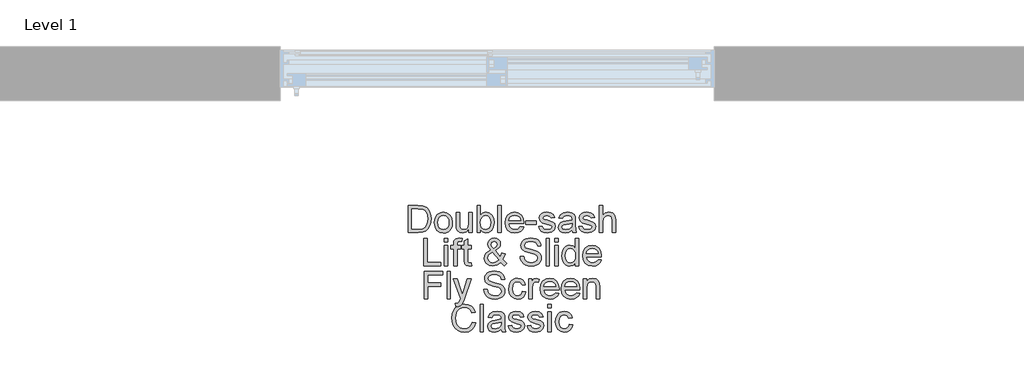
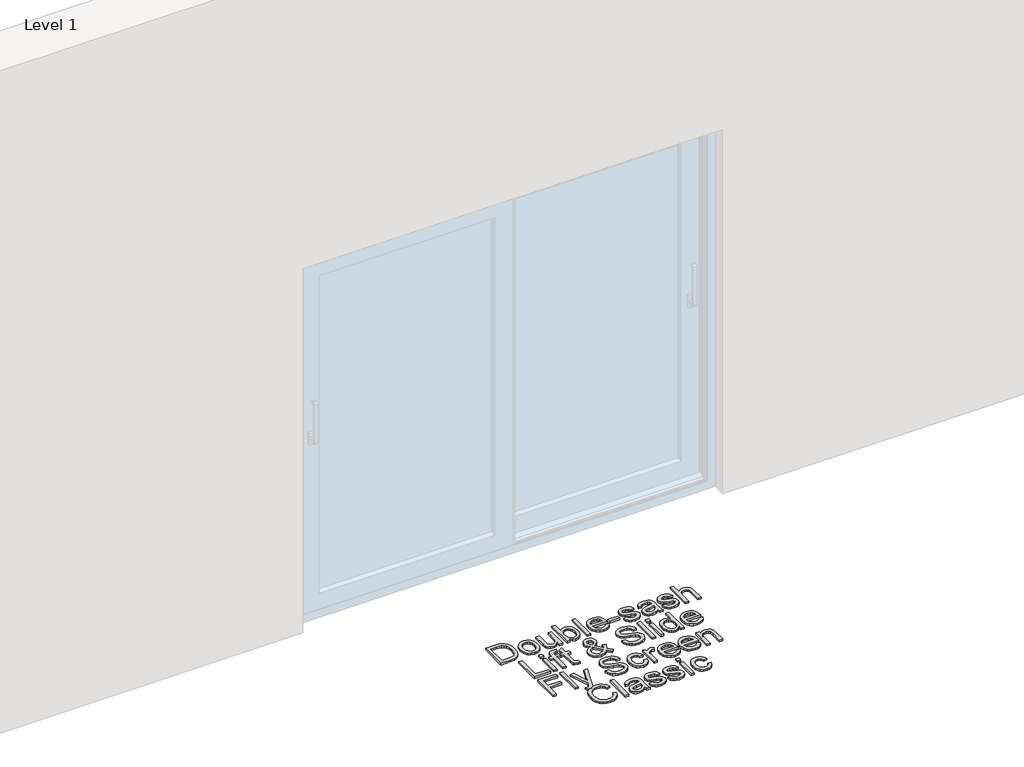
# One storey, part 5 of 13: 1 proxy.
"""IFC4 building model written with IfcOpenShell, lengths in millimetres."""

from ifc_helpers import new_model, si_unit, origin, origin_with_axes, place, context, project, spatial, polyline, outline, extrude, element, save

model = new_model("IFC4")

# Units and contexts
model_context = context("Model", 3, world=origin())
ifc_project = project(units=[si_unit("LENGTHUNIT", "METRE", prefix="MILLI")], contexts=[model_context])

# Site, building, storey
site = spatial("IfcSite", under=ifc_project)
building = spatial("IfcBuilding", under=site)
storey = spatial("IfcBuildingStorey", under=building, Name="Level 1", Elevation=0.0)

# Proxy
placement = place(None, origin())
element("IfcBuildingElementProxy", 1, Name="150mm Arial", ObjectType="150mm Arial", at=placement, inside=storey, context=model_context, shape_type="SweptSolid", body=[
    extrude(outline(polyline([(2688.4009515, -897.6627533), (2688.4009515, -746.9782881), (2740.3826774, -746.9782881), (2767.2748513, -749.1487919), (2789.4213474, -759.9277343), (2799.8416049, -771.4056526), (2807.2636242, -785.679474), (2811.7057993, -802.4732871), (2813.1865243, -821.5111803), (2809.1766105, -851.9166272), (2798.8759147, -873.8607883), (2785.1171281, -887.5276044), (2767.1093044, -895.0875794), (2742.884275, -897.6627533), (2688.4009515, -897.6627533)]), holes=[polyline([(2707.2365097, -878.8271952), (2740.5666184, -878.8271952), (2764.8100419, -876.1048684), (2778.7895577, -868.4161347), (2790.2490819, -849.7093353), (2794.3509661, -821.2168747), (2792.3414107, -800.6890594), (2786.3127445, -785.5323212), (2777.4054017, -775.1212607), (2766.7598165, -768.8304786), (2740.0515836, -765.8138463), (2707.2365097, -765.8138463), (2707.2365097, -878.8271952)])]), origin_with_axes(), (0.0, 0.0, 1.0), 10.0),
    extrude(outline(polyline([(2832.0220824, -842.3333013), (2836.0963755, -815.6526596), (2848.3192548, -796.8998749), (2863.4208107, -787.712022), (2881.5022108, -784.6494044), (2901.2896636, -788.3788081), (2917.0947938, -799.5670193), (2927.4552705, -817.3311212), (2930.9087627, -840.7881969), (2929.3820525, -859.8168931), (2924.8019216, -874.3022466), (2917.3017274, -885.150167), (2907.0148272, -893.2665635), (2894.7965464, -898.3295395), (2881.5022108, -900.0171981), (2861.4756347, -896.30159), (2845.6888986, -885.1547655), (2835.4387865, -867.0181831), (2832.0220824, -842.3333013)]), holes=[polyline([(2850.8576406, -842.2965131), (2853.0373414, -859.343245), (2859.5764439, -871.4879494), (2869.4172873, -878.7582173), (2881.5022108, -881.18164), (2893.531952, -878.7444217), (2903.3544013, -871.4327671), (2909.8935038, -859.1271143), (2912.0732046, -841.7079019), (2909.8797082, -825.1578106), (2903.299219, -813.1786531), (2893.4629742, -805.9083852), (2881.5022108, -803.4849626), (2869.4172873, -805.8991882), (2859.5764439, -813.141865), (2853.0373414, -825.2589782), (2850.8576406, -842.2965131)])]), origin_with_axes(), (0.0, 0.0, 1.0), 10.0),
    extrude(outline(polyline([(3022.7321087, -897.6627533), (3022.7321087, -878.6432542), (3007.9800407, -894.6737121), (2988.7398124, -900.0171981), (2971.0262943, -896.2648018), (2958.8126121, -886.8470227), (2953.2024117, -872.9778715), (2952.0987657, -855.4666885), (2952.0987657, -787.0038492), (2970.9343238, -787.0038492), (2970.9343238, -846.6007324), (2972.074758, -865.8041726), (2979.5243684, -877.0797557), (2993.5590665, -881.18164), (3009.2860218, -876.9877852), (3019.6786882, -865.5650493), (3022.7321087, -844.5773814), (3022.7321087, -787.0038492), (3041.5676669, -787.0038492), (3041.5676669, -897.6627533), (3022.7321087, -897.6627533)])), origin_with_axes(), (0.0, 0.0, 1.0), 10.0),
    extrude(outline(polyline([(3086.3021175, -897.6627533), (3067.4665594, -897.6627533), (3067.4665594, -746.9782881), (3086.3021175, -746.9782881), (3086.3021175, -802.8595632), (3099.490687, -789.2019441), (3115.8798299, -784.6494044), (3134.7521763, -788.7512887), (3149.3938797, -800.2843892), (3158.3885945, -818.2186365), (3161.6443501, -840.6778323), (3158.2736313, -865.8225667), (3148.161475, -884.5293661), (3133.322035, -896.1452401), (3115.7694653, -900.0171981), (3099.0216375, -895.0232), (3086.3021175, -880.0412058), (3086.3021175, -897.6627533)]), holes=[polyline([(3086.3021175, -841.5607491), (3087.5897045, -857.2693103), (3091.4524654, -867.9010999), (3101.3209, -877.861505), (3114.1507845, -881.18164), (3125.0216975, -878.7352247), (3134.3107179, -871.3959789), (3140.6842734, -859.2098878), (3142.808792, -842.2229367), (3140.7716454, -824.9876652), (3134.6602058, -812.9395299), (3125.6608925, -805.8486044), (3114.9601249, -803.4849626), (3104.089212, -805.9313778), (3094.8001916, -813.2706236), (3088.426636, -825.2359855), (3086.3021175, -841.5607491)])]), origin_with_axes(), (0.0, 0.0, 1.0), 10.0),
    extrude(outline(polyline([(3182.834353, -897.6627533), (3182.834353, -746.9782881), (3201.6699112, -746.9782881), (3201.6699112, -897.6627533), (3182.834353, -897.6627533)])), origin_with_axes(), (0.0, 0.0, 1.0), 10.0),
    extrude(outline(polyline([(3307.3991966, -864.7005266), (3325.8668728, -867.0549713), (3319.2128072, -880.9701078), (3308.5948131, -891.3719712), (3294.2520138, -897.8558914), (3276.4235326, -900.0171981), (3254.3230218, -896.2877944), (3237.3176765, -885.0995832), (3226.4743547, -867.1791315), (3222.8599141, -843.2530063), (3226.5111429, -818.5221391), (3237.4648293, -800.0268718), (3254.2402483, -788.4937713), (3275.3566748, -784.6494044), (3295.8155123, -788.4845742), (3312.1632684, -799.9900836), (3322.8824301, -818.4485627), (3326.455484, -843.1426417), (3326.3451194, -848.2194132), (3241.6954723, -848.2194132), (3244.9558265, -862.3184907), (3252.529597, -872.6835659), (3263.4602908, -879.0571214), (3276.7914146, -881.18164), (3295.2590908, -877.2453026), (3307.3991966, -864.7005266)]), holes=[polyline([(3241.6954723, -829.383855), (3307.6199258, -829.383855), (3305.072343, -819.4326471), (3300.0783449, -812.3141305), (3289.0970674, -805.6922545), (3275.2830984, -803.4849626), (3262.5865711, -805.2461976), (3252.0881386, -810.5299028), (3244.7902796, -818.765861), (3241.6954723, -829.383855)])]), origin_with_axes(), (0.0, 0.0, 1.0), 10.0),
    extrude(outline(polyline([(3335.873263, -852.9283027), (3335.873263, -834.0927446), (3394.7343823, -834.0927446), (3394.7343823, -852.9283027), (3335.873263, -852.9283027)])), origin_with_axes(), (0.0, 0.0, 1.0), 10.0),
    extrude(outline(polyline([(3408.8610509, -864.7005266), (3427.696609, -862.3460818), (3430.6672561, -870.4026975), (3436.4154123, -876.3255976), (3456.3914047, -881.18164), (3475.5948448, -876.7302678), (3481.8488387, -866.2824192), (3480.2761432, -861.4815591), (3475.5580566, -857.8211333), (3456.1706755, -852.4500561), (3427.8069736, -843.2346122), (3415.4277445, -832.4740638), (3411.2154956, -817.2805374), (3414.60001, -803.2458393), (3423.8338481, -792.5220791), (3435.808407, -786.9486669), (3452.0136089, -784.6494044), (3474.9326572, -788.3466185), (3489.5007842, -798.3530087), (3495.9755073, -815.2571864), (3477.1399492, -817.6116312), (3470.0582208, -807.2189648), (3453.4851369, -803.4849626), (3435.4589191, -807.0534179), (3430.0510538, -815.367551), (3432.295134, -820.8489927), (3439.3216801, -825.0060593), (3455.5452761, -829.015973), (3483.191608, -837.8819291), (3496.0306896, -847.9251076), (3500.6843969, -864.2958564), (3495.2213492, -882.3220741), (3479.4576058, -895.4002791), (3456.1338873, -900.0171981), (3437.1419793, -897.791512), (3423.2820251, -891.1144538), (3414.0297929, -880.0595999), (3408.8610509, -864.7005266)])), origin_with_axes(), (0.0, 0.0, 1.0), 10.0),
    extrude(outline(polyline([(3592.5077429, -883.5360847), (3574.2424018, -896.30159), (3554.0640744, -900.0171981), (3538.3233235, -897.782315), (3526.712048, -891.0776656), (3519.5521447, -880.8965314), (3517.1655103, -868.2321937), (3520.7707538, -853.3329729), (3530.2437152, -842.5172423), (3543.4322847, -836.3368247), (3559.7294571, -833.5041334), (3592.3973783, -827.0294103), (3592.5077429, -822.8355555), (3591.2109588, -814.4294519), (3587.3206067, -808.9296161), (3578.6201976, -804.846126), (3566.4984858, -803.4849626), (3547.4421985, -807.1086002), (3538.3555132, -819.966076), (3519.519955, -817.6116312), (3527.6685412, -799.2175314), (3544.0760782, -788.438589), (3568.926507, -784.6494044), (3591.7535848, -787.9971306), (3604.6478487, -796.4032342), (3610.423596, -809.1871335), (3611.343301, -825.6682469), (3611.343301, -849.10233), (3612.2997942, -881.8254334), (3616.0521906, -897.6627533), (3597.2166324, -897.6627533), (3592.5077429, -883.5360847)]), holes=[polyline([(3592.5077429, -845.8649684), (3562.1206901, -851.6407157), (3545.9154882, -854.6941363), (3538.5762424, -859.6605432), (3536.0010684, -866.9078185), (3541.6112688, -877.0981498), (3558.0739881, -881.18164), (3577.1302755, -876.6750855), (3589.4175341, -865.7673844), (3592.3973783, -851.1992574), (3592.5077429, -845.8649684)])]), origin_with_axes(), (0.0, 0.0, 1.0), 10.0),
    extrude(outline(polyline([(3630.1788592, -864.7005266), (3649.0144173, -862.3460818), (3651.9850644, -870.4026975), (3657.7332206, -876.3255976), (3677.709213, -881.18164), (3696.9126531, -876.7302678), (3703.166647, -866.2824192), (3701.5939515, -861.4815591), (3696.8758649, -857.8211333), (3677.4884838, -852.4500561), (3649.1247819, -843.2346122), (3636.7455528, -832.4740638), (3632.5333039, -817.2805374), (3635.9178183, -803.2458393), (3645.1516564, -792.5220791), (3657.1262153, -786.9486669), (3673.3314172, -784.6494044), (3696.2504655, -788.3466185), (3710.8185925, -798.3530087), (3717.2933156, -815.2571864), (3698.4577575, -817.6116312), (3691.3760291, -807.2189648), (3674.8029452, -803.4849626), (3656.7767274, -807.0534179), (3651.3688621, -815.367551), (3653.6129423, -820.8489927), (3660.6394884, -825.0060593), (3676.8630844, -829.015973), (3704.5094163, -837.8819291), (3717.3484979, -847.9251076), (3722.0022052, -864.2958564), (3716.5391575, -882.3220741), (3700.7754141, -895.4002791), (3677.4516956, -900.0171981), (3658.4597876, -897.791512), (3644.5998334, -891.1144538), (3635.3476012, -880.0595999), (3630.1788592, -864.7005266)])), origin_with_axes(), (0.0, 0.0, 1.0), 10.0),
    extrude(outline(polyline([(3743.1922081, -897.6627533), (3743.1922081, -746.9782881), (3762.0277662, -746.9782881), (3762.0277662, -802.3813166), (3776.7154549, -789.0823825), (3794.806052, -784.6494044), (3815.9592667, -789.4870527), (3828.7983484, -802.8595632), (3832.6611093, -827.6180215), (3832.6611093, -897.6627533), (3813.8255512, -897.6627533), (3813.8255512, -829.567796), (3812.326432, -817.7771781), (3807.8290746, -809.7021683), (3800.5817993, -805.039264), (3790.8329265, -803.4849626), (3775.4002768, -807.6788173), (3765.0995809, -819.046371), (3762.0277662, -838.8752105), (3762.0277662, -897.6627533), (3743.1922081, -897.6627533)])), origin_with_axes(), (0.0, 0.0, 1.0), 10.0),
    extrude(outline(polyline([(2773.1609632, -1080.6249801), (2773.1609632, -929.9405149), (2791.9965214, -929.9405149), (2791.9965214, -1061.789422), (2867.338754, -1061.789422), (2867.338754, -1080.6249801), (2773.1609632, -1080.6249801)])), origin_with_axes(), (0.0, 0.0, 1.0), 10.0),
    extrude(outline(polyline([(2886.1743121, -948.776073), (2886.1743121, -929.9405149), (2905.0098703, -929.9405149), (2905.0098703, -948.776073), (2886.1743121, -948.776073)])), origin_with_axes(), (0.0, 0.0, 1.0), 10.0),
    extrude(outline(polyline([(2886.1743121, -1080.6249801), (2886.1743121, -969.966076), (2905.0098703, -969.966076), (2905.0098703, -1080.6249801), (2886.1743121, -1080.6249801)])), origin_with_axes(), (0.0, 0.0, 1.0), 10.0),
    extrude(outline(polyline([(2937.9720971, -1080.6249801), (2937.9720971, -988.8016341), (2921.4909837, -988.8016341), (2921.4909837, -969.966076), (2937.9720971, -969.966076), (2937.9720971, -958.8192515), (2939.9586598, -943.1106903), (2949.5971681, -931.8902895), (2968.5798791, -927.5860701), (2985.7599682, -929.6462093), (2983.0008533, -947.3045451), (2972.1483344, -946.4216283), (2960.2841401, -949.5486252), (2956.8076552, -961.2104845), (2956.8076552, -969.966076), (2977.9976581, -969.966076), (2977.9976581, -988.8016341), (2956.8076552, -988.8016341), (2956.8076552, -1080.6249801), (2937.9720971, -1080.6249801)])), origin_with_axes(), (0.0, 0.0, 1.0), 10.0),
    extrude(outline(polyline([(3034.5043326, -1064.9164189), (3036.8587774, -1081.1768031), (3022.7688969, -1082.9794249), (3006.9867593, -1079.8524279), (2999.1140847, -1071.6486594), (2996.8332163, -1050.2747155), (2996.8332163, -988.8016341), (2982.7065477, -988.8016341), (2982.7065477, -969.966076), (2996.8332163, -969.966076), (2996.8332163, -943.0739021), (3015.6687744, -932.0006541), (3015.6687744, -969.966076), (3034.5043326, -969.966076), (3034.5043326, -988.8016341), (3015.6687744, -988.8016341), (3015.6687744, -1049.7228925), (3016.6620558, -1059.4349772), (3019.8810233, -1062.8746738), (3026.3005641, -1064.1438667), (3034.5043326, -1064.9164189)])), origin_with_axes(), (0.0, 0.0, 1.0), 10.0),
    extrude(outline(polyline([(3198.6164906, -1062.0101512), (3178.6404983, -1077.7371064), (3155.2799916, -1082.9794249), (3134.4946589, -1079.0982698), (3118.4917921, -1067.4548047), (3110.2420383, -1054.054703), (3107.4921204, -1039.1646793), (3109.7040109, -1025.9669127), (3116.3396824, -1014.1119154), (3127.3715437, -1003.6088844), (3142.7720038, -994.4670168), (3129.6202224, -975.4107295), (3126.3276786, -961.2840609), (3128.9212467, -948.5645409), (3136.7019508, -937.6292486), (3148.4097953, -930.0968647), (3162.7847843, -927.5860701), (3176.4607975, -929.9865001), (3187.3960898, -937.1877902), (3194.5697887, -947.7552005), (3196.9610217, -960.2539913), (3195.1905896, -970.7478252), (3189.8792933, -980.4507128), (3168.634108, -997.4836492), (3195.8941639, -1031.4391574), (3204.024356, -1010.5802482), (3222.8599141, -1014.6637384), (3209.5425859, -1045.6761906), (3232.2776932, -1068.4848743), (3218.1510246, -1082.9794249), (3198.6164906, -1062.0101512)]), holes=[polyline([(3159.1059644, -985.6010608), (3174.5937964, -973.9208074), (3178.1254635, -962.8291653), (3173.4717563, -951.0017591), (3161.8282911, -946.4216283), (3149.9273086, -950.9649709), (3145.1632367, -962.0566131), (3146.7819175, -968.9544005), (3151.6747481, -976.6247401), (3159.1059644, -985.6010608)]), polyline([(3185.9981382, -1048.4353055), (3152.3737238, -1006.4599699), (3131.6803616, -1022.2421075), (3126.3276786, -1036.6630817), (3128.1578915, -1045.5474319), (3133.6485303, -1054.7628758), (3142.4960923, -1061.798619), (3154.3970748, -1064.1438667), (3171.7059227, -1059.766071), (3185.9981382, -1048.4353055)])]), origin_with_axes(), (0.0, 0.0, 1.0), 10.0),
    extrude(outline(polyline([(3305.265481, -1028.8271952), (3324.1010392, -1028.8271952), (3330.1710921, -1047.6811474), (3344.9967365, -1059.6005241), (3367.584691, -1064.1438667), (3387.2663778, -1060.7041701), (3399.9767007, -1051.2496028), (3404.1521613, -1038.6128563), (3401.0251644, -1026.8590265), (3388.222871, -1018.3057701), (3360.7972682, -1011.1136771), (3331.2747381, -1001.8246567), (3315.2534772, -987.8083527), (3309.9743706, -969.0831592), (3311.6068469, -958.0512978), (3316.504276, -947.7643976), (3324.5378991, -939.0455943), (3335.5789574, -932.7180239), (3363.5012009, -927.5860701), (3393.2996425, -932.9571472), (3404.7223784, -939.5882202), (3413.1652702, -948.7392848), (3418.5087562, -959.840124), (3420.6332747, -972.3205207), (3401.7977166, -972.3205207), (3398.3396258, -961.0817258), (3391.1291387, -952.9699278), (3379.8627526, -948.0587031), (3364.2369649, -946.4216283), (3348.2432951, -948.040309), (3337.2712146, -952.8963514), (3330.9252502, -960.0424591), (3328.8099287, -968.5313362), (3330.3090479, -975.7694144), (3334.8064053, -981.591147), (3365.56134, -992.1125721), (3398.8914488, -1001.5671393), (3409.6290045, -1008.4005474), (3417.1200017, -1016.8342421), (3421.52079, -1026.7762531), (3422.9877195, -1038.1346097), (3421.3000608, -1049.7458851), (3416.2370849, -1060.6673819), (3408.0057252, -1070.0667668), (3396.8129155, -1077.1117071), (3383.353033, -1081.5124954), (3368.320455, -1082.9794249), (3349.8665744, -1081.3975323), (3334.6776466, -1076.6518546), (3322.5789274, -1068.7239976), (3313.3956731, -1057.5955672), (3307.5003642, -1044.0391157), (3305.265481, -1028.8271952)])), origin_with_axes(), (0.0, 0.0, 1.0), 10.0),
    extrude(outline(polyline([(3448.886612, -1080.6249801), (3448.886612, -929.9405149), (3467.7221701, -929.9405149), (3467.7221701, -1080.6249801), (3448.886612, -1080.6249801)])), origin_with_axes(), (0.0, 0.0, 1.0), 10.0),
    extrude(outline(polyline([(3495.9755073, -948.776073), (3495.9755073, -929.9405149), (3514.8110655, -929.9405149), (3514.8110655, -948.776073), (3495.9755073, -948.776073)])), origin_with_axes(), (0.0, 0.0, 1.0), 10.0),
    extrude(outline(polyline([(3495.9755073, -1080.6249801), (3495.9755073, -969.966076), (3514.8110655, -969.966076), (3514.8110655, -1080.6249801), (3495.9755073, -1080.6249801)])), origin_with_axes(), (0.0, 0.0, 1.0), 10.0),
    extrude(outline(polyline([(3611.343301, -1080.6249801), (3611.343301, -1062.8562797), (3598.8812984, -1077.9486386), (3581.655224, -1082.9794249), (3569.47833, -1081.158409), (3558.3315055, -1075.6953614), (3548.8953323, -1066.9719596), (3541.8503921, -1055.3698811), (3537.4633993, -1041.3581756), (3536.0010684, -1025.4058926), (3541.3905396, -995.42351), (3548.1227802, -983.5317245), (3557.5405592, -974.7853301), (3568.9311055, -969.4050559), (3581.5816476, -967.6116312), (3598.9456778, -972.743585), (3611.343301, -986.0793073), (3611.343301, -929.9405149), (3630.1788592, -929.9405149), (3630.1788592, -1080.6249801), (3611.343301, -1080.6249801)]), holes=[polyline([(3554.8366266, -1025.3323162), (3556.9611451, -1042.3698511), (3563.3347007, -1054.4869644), (3572.5961299, -1061.7296411), (3583.3842694, -1064.1438667), (3594.1678104, -1061.8400057), (3603.1947148, -1054.9284227), (3609.3061545, -1043.2803591), (3611.343301, -1026.767056), (3609.2693663, -1008.7132471), (3603.047562, -996.1960622), (3593.7907313, -988.8844076), (3582.6117172, -986.4471893), (3571.7132131, -988.7878385), (3562.7828777, -995.8097861), (3556.8231893, -1007.871717), (3554.8366266, -1025.3323162)])]), origin_with_axes(), (0.0, 0.0, 1.0), 10.0),
    extrude(outline(polyline([(3735.9081446, -1047.6627533), (3754.3758208, -1050.0171981), (3747.7217552, -1063.9323346), (3737.1037611, -1074.334198), (3722.7609618, -1080.8181182), (3704.9324806, -1082.9794249), (3682.8319697, -1079.2500212), (3665.8266245, -1068.06181), (3654.9833027, -1050.1413583), (3651.3688621, -1026.215233), (3655.0200909, -1001.4843659), (3665.9737773, -982.9890986), (3682.7491963, -971.455998), (3703.8656228, -967.6116312), (3724.3244603, -971.446801), (3740.6722164, -982.9523104), (3751.3913781, -1001.4107895), (3754.9644319, -1026.1048684), (3754.8540673, -1031.18164), (3670.2044203, -1031.18164), (3673.4647744, -1045.2807174), (3681.038545, -1055.6457926), (3691.9692388, -1062.0193482), (3705.3003626, -1064.1438667), (3723.7680388, -1060.2075294), (3735.9081446, -1047.6627533)]), holes=[polyline([(3670.2044203, -1012.3460818), (3736.1288738, -1012.3460818), (3733.581291, -1002.3948738), (3728.5872929, -995.2763572), (3717.6060153, -988.6544813), (3703.7920464, -986.4471893), (3691.0955191, -988.2084244), (3680.5970866, -993.4921296), (3673.2992275, -1001.7280877), (3670.2044203, -1012.3460818)])]), origin_with_axes(), (0.0, 0.0, 1.0), 10.0),
    extrude(outline(polyline([(2776.6926304, -1263.5872069), (2776.6926304, -1112.9027417), (2877.9337554, -1112.9027417), (2877.9337554, -1131.7382998), (2795.5281885, -1131.7382998), (2795.5281885, -1176.4727504), (2866.1615316, -1176.4727504), (2866.1615316, -1195.3083086), (2795.5281885, -1195.3083086), (2795.5281885, -1263.5872069), (2776.6926304, -1263.5872069)])), origin_with_axes(), (0.0, 0.0, 1.0), 10.0),
    extrude(outline(polyline([(2901.4782031, -1263.5872069), (2901.4782031, -1112.9027417), (2920.3137613, -1112.9027417), (2920.3137613, -1263.5872069), (2901.4782031, -1263.5872069)])), origin_with_axes(), (0.0, 0.0, 1.0), 10.0),
    extrude(outline(polyline([(2948.5670985, -1305.9672127), (2946.2126537, -1287.8306304), (2955.7775856, -1289.4860993), (2964.7171181, -1287.4075661), (2970.1985598, -1281.6134246), (2975.3489078, -1267.7442734), (2976.8204357, -1263.1825367), (2936.7948747, -1152.9283027), (2956.6605024, -1152.9283027), (2977.8872935, -1214.3645959), (2985.2817216, -1238.9391132), (2992.6761497, -1217.2340755), (3014.4915521, -1152.9283027), (3034.210027, -1152.9283027), (2995.6927821, -1266.2359572), (2985.6863918, -1290.8104745), (2974.7602966, -1304.0910145), (2960.081805, -1308.3216575), (2948.5670985, -1305.9672127)])), origin_with_axes(), (0.0, 0.0, 1.0), 10.0),
    extrude(outline(polyline([(3103.9604533, -1211.789422), (3122.7960114, -1211.789422), (3128.8660644, -1230.6433742), (3143.6917088, -1242.5627509), (3166.2796633, -1247.1060935), (3185.96135, -1243.6663968), (3198.6716729, -1234.2118296), (3202.8471336, -1221.575083), (3199.7201366, -1209.8212533), (3186.9178432, -1201.2679969), (3159.4922404, -1194.0759039), (3129.9697103, -1184.7868835), (3113.9484494, -1170.7705795), (3108.6693428, -1152.0453859), (3110.3018192, -1141.0135246), (3115.1992482, -1130.7266243), (3123.2328713, -1122.007821), (3134.2739297, -1115.6802507), (3162.1961731, -1110.5482969), (3191.9946147, -1115.919374), (3203.4173507, -1122.550447), (3211.8602425, -1131.7015116), (3217.2037284, -1142.8023508), (3219.328247, -1155.2827475), (3200.4926888, -1155.2827475), (3197.0345981, -1144.0439525), (3189.824111, -1135.9321546), (3178.5577248, -1131.0209299), (3162.9319371, -1129.383855), (3146.9382674, -1131.0025358), (3135.9661869, -1135.8585782), (3129.6202224, -1143.0046859), (3127.504901, -1151.4935629), (3129.0040201, -1158.7316412), (3133.5013775, -1164.5533738), (3164.2563123, -1175.0747988), (3197.5864211, -1184.5293661), (3208.3239768, -1191.3627742), (3215.8149739, -1199.7964689), (3220.2157623, -1209.7384798), (3221.6826917, -1221.0968364), (3219.9950331, -1232.7081119), (3214.9320571, -1243.6296086), (3206.7006975, -1253.0289936), (3195.5078878, -1260.0739338), (3182.0480053, -1264.4747222), (3167.0154273, -1265.9416516), (3148.5615467, -1264.3597591), (3133.3726188, -1259.6140813), (3121.2738997, -1251.6862243), (3112.0906454, -1240.557794), (3106.1953364, -1227.0013425), (3103.9604533, -1211.789422)])), origin_with_axes(), (0.0, 0.0, 1.0), 10.0),
    extrude(outline(polyline([(3318.2149273, -1223.5616458), (3337.0504854, -1225.9160906), (3331.7989699, -1242.6685169), (3321.9305354, -1255.3282561), (3308.3740839, -1263.2883028), (3292.0585174, -1265.9416516), (3272.0227442, -1262.2398391), (3256.3555698, -1251.1344013), (3246.2434134, -1233.1127821), (3242.8726947, -1208.662425), (3244.312033, -1191.9008016), (3248.6300479, -1177.3740613), (3255.8957173, -1165.6432242), (3266.1780191, -1157.2693103), (3278.4790733, -1152.247721), (3291.801, -1150.573858), (3307.7164948, -1152.8731204), (3320.4406133, -1159.7709078), (3329.5686853, -1170.8993382), (3334.6960407, -1185.8905295), (3315.8604825, -1188.2449743), (3307.1232851, -1174.1366998), (3291.9481528, -1169.4094161), (3279.7758573, -1171.7362697), (3270.1143564, -1178.7168306), (3263.8097787, -1190.7281777), (3261.7082528, -1208.1473902), (3263.7637935, -1225.8011274), (3269.9304154, -1237.8538613), (3279.4171724, -1244.7930354), (3291.433118, -1247.1060935), (3301.1865894, -1245.6621567), (3309.1834243, -1241.3303462), (3315.0005583, -1234.0002974), (3318.2149273, -1223.5616458)])), origin_with_axes(), (0.0, 0.0, 1.0), 10.0),
    extrude(outline(polyline([(3353.5315988, -1263.5872069), (3353.5315988, -1152.9283027), (3370.0127122, -1152.9283027), (3370.0127122, -1169.2990515), (3381.7113596, -1154.2158897), (3393.4835835, -1150.573858), (3412.392718, -1156.3863935), (3406.1019359, -1173.2721771), (3392.8581841, -1169.4094161), (3382.2080003, -1173.1250243), (3375.4205775, -1183.4257201), (3372.367157, -1205.4250634), (3372.367157, -1263.5872069), (3353.5315988, -1263.5872069)])), origin_with_axes(), (0.0, 0.0, 1.0), 10.0),
    extrude(outline(polyline([(3501.6408901, -1230.6249801), (3520.1085662, -1232.9794249), (3513.4545006, -1246.8945613), (3502.8365065, -1257.2964248), (3488.4937073, -1263.7803449), (3470.6652261, -1265.9416516), (3448.5647152, -1262.2122479), (3431.55937, -1251.0240367), (3420.7160482, -1233.1035851), (3417.1016076, -1209.1774598), (3420.7528364, -1184.4465927), (3431.7065228, -1165.9513254), (3448.4819418, -1154.4182248), (3469.5983683, -1150.573858), (3490.0572057, -1154.4090278), (3506.4049619, -1165.9145372), (3517.1241235, -1184.3730163), (3520.6971774, -1209.0670952), (3520.5868128, -1214.1438667), (3435.9371657, -1214.1438667), (3439.1975199, -1228.2429442), (3446.7712905, -1238.6080194), (3457.7019843, -1244.981575), (3471.0331081, -1247.1060935), (3489.5007842, -1243.1697561), (3501.6408901, -1230.6249801)]), holes=[polyline([(3435.9371657, -1195.3083086), (3501.8616193, -1195.3083086), (3499.3140364, -1185.3571006), (3494.3200384, -1178.238584), (3483.3387608, -1171.6167081), (3469.5247919, -1169.4094161), (3456.8282645, -1171.1706512), (3446.3298321, -1176.4543563), (3439.031973, -1184.6903145), (3435.9371657, -1195.3083086)])]), origin_with_axes(), (0.0, 0.0, 1.0), 10.0),
    extrude(outline(polyline([(3617.0086838, -1230.6249801), (3635.4763599, -1232.9794249), (3628.8222943, -1246.8945613), (3618.2043002, -1257.2964248), (3603.8615009, -1263.7803449), (3586.0330198, -1265.9416516), (3563.9325089, -1262.2122479), (3546.9271637, -1251.0240367), (3536.0838419, -1233.1035851), (3532.4694013, -1209.1774598), (3536.1206301, -1184.4465927), (3547.0743165, -1165.9513254), (3563.8497354, -1154.4182248), (3584.966162, -1150.573858), (3605.4249994, -1154.4090278), (3621.7727556, -1165.9145372), (3632.4919172, -1184.3730163), (3636.0649711, -1209.0670952), (3635.9546065, -1214.1438667), (3551.3049594, -1214.1438667), (3554.5653136, -1228.2429442), (3562.1390842, -1238.6080194), (3573.069778, -1244.981575), (3586.4009018, -1247.1060935), (3604.8685779, -1243.1697561), (3617.0086838, -1230.6249801)]), holes=[polyline([(3551.3049594, -1195.3083086), (3617.2294129, -1195.3083086), (3614.6818301, -1185.3571006), (3609.687832, -1178.238584), (3598.7065545, -1171.6167081), (3584.8925856, -1169.4094161), (3572.1960582, -1171.1706512), (3561.6976258, -1176.4543563), (3554.3997667, -1184.6903145), (3551.3049594, -1195.3083086)])]), origin_with_axes(), (0.0, 0.0, 1.0), 10.0),
    extrude(outline(polyline([(3654.9005293, -1263.5872069), (3654.9005293, -1152.9283027), (3673.7360874, -1152.9283027), (3673.7360874, -1168.3793465), (3688.1386675, -1155.0252301), (3707.8019602, -1150.573858), (3725.5890546, -1154.1607074), (3737.7291605, -1163.5784865), (3743.3761491, -1177.4292436), (3744.3694305, -1195.6394024), (3744.3694305, -1263.5872069), (3725.5338723, -1263.5872069), (3725.5338723, -1198.1777881), (3723.3633686, -1181.5127338), (3715.693029, -1172.70196), (3702.7619768, -1169.4094161), (3691.7301155, -1171.2580231), (3682.326132, -1176.8038442), (3675.8835986, -1187.5184073), (3673.7360874, -1204.8732404), (3673.7360874, -1263.5872069), (3654.9005293, -1263.5872069)])), origin_with_axes(), (0.0, 0.0, 1.0), 10.0),
    extrude(outline(polyline([(3041.5676669, -1392.9858151), (3060.403225, -1397.8418575), (3051.7120129, -1419.790617), (3038.0727879, -1435.8256735), (3020.1569348, -1445.6343272), (2998.6358381, -1448.9038784), (2976.7882461, -1446.429872), (2959.4380115, -1439.0078527), (2946.1390773, -1426.8953381), (2936.4453868, -1410.3498453), (2930.5270852, -1390.8980848), (2928.554318, -1370.0667668), (2930.7846026, -1348.0950147), (2937.4754564, -1329.1215008), (2948.2773914, -1313.7486319), (2962.8409199, -1302.5788148), (2980.1129796, -1295.7775964), (2999.0405083, -1293.5105237), (3019.6924838, -1296.4443826), (3036.7668069, -1305.2459593), (3049.7300487, -1319.3726279), (3058.0487803, -1338.2817625), (3039.2132221, -1342.7699228), (3032.6833167, -1329.0341288), (3023.7621783, -1319.6117512), (3012.3394424, -1314.1624992), (2998.3047443, -1312.3460818), (2982.1271335, -1314.3602357), (2968.8373964, -1320.4026975), (2958.7528313, -1329.8388707), (2952.1907362, -1342.0341588), (2947.3898761, -1370.0299786), (2948.8108203, -1387.430797), (2953.073653, -1402.4771706), (2960.3393224, -1414.5942838), (2970.7687769, -1423.2073211), (2983.2721662, -1428.3530705), (2996.7596399, -1430.0683203), (3012.4819967, -1427.7322696), (3025.5831942, -1420.7241176), (3035.4746214, -1409.1174406), (3041.5676669, -1392.9858151)])), origin_with_axes(), (0.0, 0.0, 1.0), 10.0),
    extrude(outline(polyline([(3083.9476727, -1446.5494336), (3083.9476727, -1295.8649684), (3102.7832309, -1295.8649684), (3102.7832309, -1446.5494336), (3083.9476727, -1446.5494336)])), origin_with_axes(), (0.0, 0.0, 1.0), 10.0),
    extrude(outline(polyline([(3201.6699112, -1432.422765), (3183.4045701, -1445.1882703), (3163.2262427, -1448.9038784), (3147.4854918, -1446.6689953), (3135.8742164, -1439.9643459), (3128.714313, -1429.7832117), (3126.3276786, -1417.118874), (3129.9329221, -1402.2196532), (3139.4058835, -1391.4039226), (3152.594453, -1385.223505), (3168.8916254, -1382.3908137), (3201.5595466, -1375.9160906), (3201.6699112, -1371.7222358), (3200.3731272, -1363.3161322), (3196.4827751, -1357.8162964), (3187.7823659, -1353.7328063), (3175.6606541, -1352.3716429), (3156.6043668, -1355.9952805), (3147.5176815, -1368.8527563), (3128.6821234, -1366.4983115), (3136.8307095, -1348.1042117), (3153.2382465, -1337.3252693), (3178.0886753, -1333.5360847), (3200.9157531, -1336.8838109), (3213.810017, -1345.2899145), (3219.5857644, -1358.0738138), (3220.5054693, -1374.5549272), (3220.5054693, -1397.9890103), (3221.4619625, -1430.7121138), (3225.2143589, -1446.5494336), (3206.3788007, -1446.5494336), (3201.6699112, -1432.422765)]), holes=[polyline([(3201.6699112, -1394.7516487), (3171.2828584, -1400.527396), (3155.0776565, -1403.5808166), (3147.7384107, -1408.5472235), (3145.1632367, -1415.7944988), (3150.7734372, -1425.9848301), (3167.2361564, -1430.0683203), (3186.2924438, -1425.5617658), (3198.5797024, -1414.6540647), (3201.5595466, -1400.0859377), (3201.6699112, -1394.7516487)])]), origin_with_axes(), (0.0, 0.0, 1.0), 10.0),
    extrude(outline(polyline([(3239.3410275, -1413.5872069), (3258.1765857, -1411.2327621), (3261.1472328, -1419.2893778), (3266.8953889, -1425.2122779), (3286.8713813, -1430.0683203), (3306.0748214, -1425.6169481), (3312.3288153, -1415.1690995), (3310.7561198, -1410.3682394), (3306.0380332, -1406.7078136), (3286.6506521, -1401.3367364), (3258.2869503, -1392.1212925), (3245.9077211, -1381.3607441), (3241.6954723, -1366.1672177), (3245.0799866, -1352.1325196), (3254.3138247, -1341.4087594), (3266.2883836, -1335.8353472), (3282.4935855, -1333.5360847), (3305.4126338, -1337.2332988), (3319.9807608, -1347.239689), (3326.455484, -1364.1438667), (3307.6199258, -1366.4983115), (3300.5381974, -1356.1056451), (3283.9651135, -1352.3716429), (3265.9388958, -1355.9400982), (3260.5310304, -1364.2542313), (3262.7751106, -1369.7356731), (3269.8016567, -1373.8927396), (3286.0252527, -1377.9026533), (3313.6715846, -1386.7686094), (3326.5106663, -1396.8117879), (3331.1643735, -1413.1825367), (3325.7013259, -1431.2087544), (3309.9375824, -1444.2869594), (3286.6138639, -1448.9038784), (3267.6219559, -1446.6781923), (3253.7620017, -1440.0011341), (3244.5097695, -1428.9462802), (3239.3410275, -1413.5872069)])), origin_with_axes(), (0.0, 0.0, 1.0), 10.0),
    extrude(outline(polyline([(3345.2910421, -1413.5872069), (3364.1266003, -1411.2327621), (3367.0972474, -1419.2893778), (3372.8454036, -1425.2122779), (3392.8213959, -1430.0683203), (3412.024836, -1425.6169481), (3418.27883, -1415.1690995), (3416.7061344, -1410.3682394), (3411.9880478, -1406.7078136), (3392.6006667, -1401.3367364), (3364.2369649, -1392.1212925), (3351.8577357, -1381.3607441), (3347.6454869, -1366.1672177), (3351.0300012, -1352.1325196), (3360.2638393, -1341.4087594), (3372.2383983, -1335.8353472), (3388.4436001, -1333.5360847), (3411.3626484, -1337.2332988), (3425.9307755, -1347.239689), (3432.4054986, -1364.1438667), (3413.5699404, -1366.4983115), (3406.488212, -1356.1056451), (3389.9151281, -1352.3716429), (3371.8889104, -1355.9400982), (3366.481045, -1364.2542313), (3368.7251252, -1369.7356731), (3375.7516713, -1373.8927396), (3391.9752673, -1377.9026533), (3419.6215992, -1386.7686094), (3432.4606809, -1396.8117879), (3437.1143881, -1413.1825367), (3431.6513405, -1431.2087544), (3415.887597, -1444.2869594), (3392.5638785, -1448.9038784), (3373.5719705, -1446.6781923), (3359.7120163, -1440.0011341), (3350.4597841, -1428.9462802), (3345.2910421, -1413.5872069)])), origin_with_axes(), (0.0, 0.0, 1.0), 10.0),
    extrude(outline(polyline([(3458.304391, -1314.7005266), (3458.304391, -1295.8649684), (3477.1399492, -1295.8649684), (3477.1399492, -1314.7005266), (3458.304391, -1314.7005266)])), origin_with_axes(), (0.0, 0.0, 1.0), 10.0),
    extrude(outline(polyline([(3458.304391, -1446.5494336), (3458.304391, -1335.8905295), (3477.1399492, -1335.8905295), (3477.1399492, -1446.5494336), (3458.304391, -1446.5494336)])), origin_with_axes(), (0.0, 0.0, 1.0), 10.0),
    extrude(outline(polyline([(3576.0266295, -1406.5238726), (3594.8621876, -1408.8783173), (3589.6106722, -1425.6307437), (3579.7422376, -1438.2904829), (3566.1857861, -1446.2505295), (3549.8702196, -1448.9038784), (3529.8344465, -1445.2020658), (3514.167272, -1434.0966281), (3504.0551157, -1416.0750089), (3500.6843969, -1391.6246518), (3502.1237352, -1374.8630284), (3506.4417501, -1360.3362881), (3513.7074195, -1348.605451), (3523.9897213, -1340.231537), (3536.2907755, -1335.2099478), (3549.6127022, -1333.5360847), (3565.5281971, -1335.8353472), (3578.2523156, -1342.7331346), (3587.3803876, -1353.861565), (3592.5077429, -1368.8527563), (3573.6721847, -1371.207201), (3564.9349873, -1357.0989265), (3549.759855, -1352.3716429), (3537.5875595, -1354.6984965), (3527.9260586, -1361.6790574), (3521.6214809, -1373.6904045), (3519.519955, -1391.109617), (3521.5754957, -1408.7633542), (3527.7421176, -1420.8160881), (3537.2288746, -1427.7552622), (3549.2448202, -1430.0683203), (3558.9982916, -1428.6243834), (3566.9951265, -1424.2925729), (3572.8122606, -1416.9625242), (3576.0266295, -1406.5238726)])), origin_with_axes(), (0.0, 0.0, 1.0), 10.0),
])

save(model, "model.ifc")
